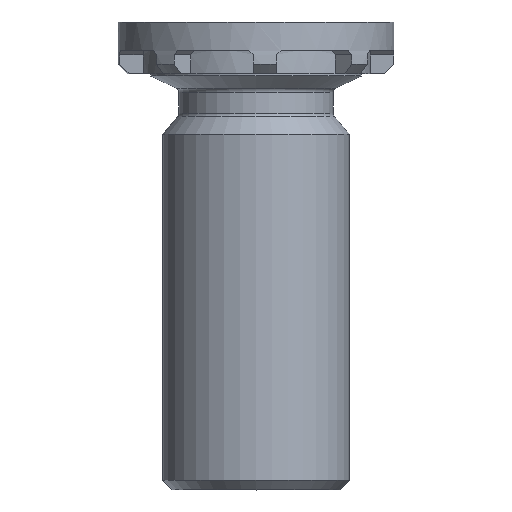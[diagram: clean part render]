
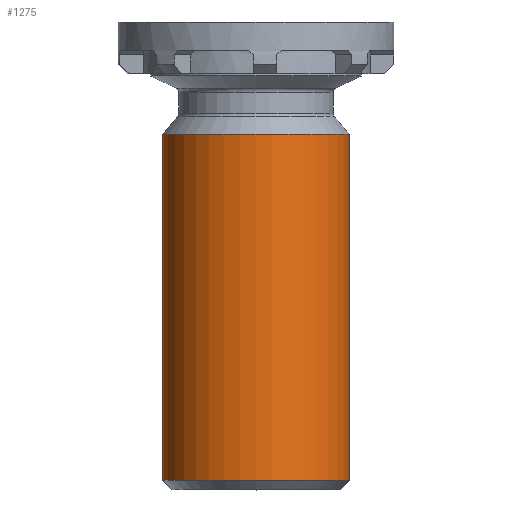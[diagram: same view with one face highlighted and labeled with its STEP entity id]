
A CAD part, top view. The second image highlights one B-rep face of the part: STEP entity #1275.
In plain terms, the highlighted cylindrical face has radius 2 mm (diameter 4 mm), a full revolution.
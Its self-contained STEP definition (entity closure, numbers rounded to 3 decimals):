
#38=CYLINDRICAL_SURFACE('',#1443,2.);
#92=CIRCLE('',#1440,2.);
#93=CIRCLE('',#1441,2.);
#94=CIRCLE('',#1444,2.);
#166=FACE_OUTER_BOUND('',#234,.T.);
#234=EDGE_LOOP('',(#1102,#1103,#1104,#1105,#1106));
#334=LINE('',#2248,#429);
#429=VECTOR('',#1831,2.);
#581=VERTEX_POINT('',#2240);
#582=VERTEX_POINT('',#2242);
#583=VERTEX_POINT('',#2247);
#767=EDGE_CURVE('',#581,#582,#92,.T.);
#768=EDGE_CURVE('',#582,#581,#93,.T.);
#769=EDGE_CURVE('',#582,#583,#334,.T.);
#770=EDGE_CURVE('',#583,#583,#94,.T.);
#1102=ORIENTED_EDGE('',*,*,#767,.F.);
#1103=ORIENTED_EDGE('',*,*,#768,.F.);
#1104=ORIENTED_EDGE('',*,*,#769,.T.);
#1105=ORIENTED_EDGE('',*,*,#770,.T.);
#1106=ORIENTED_EDGE('',*,*,#769,.F.);
#1275=ADVANCED_FACE('',(#166),#38,.T.);
#1440=AXIS2_PLACEMENT_3D('',#2243,#1823,#1824);
#1441=AXIS2_PLACEMENT_3D('',#2244,#1825,#1826);
#1443=AXIS2_PLACEMENT_3D('',#2246,#1829,#1830);
#1444=AXIS2_PLACEMENT_3D('',#2249,#1832,#1833);
#1823=DIRECTION('center_axis',(0.,-1.,0.));
#1824=DIRECTION('ref_axis',(-1.,0.,0.));
#1825=DIRECTION('center_axis',(0.,-1.,0.));
#1826=DIRECTION('ref_axis',(-1.,0.,0.));
#1829=DIRECTION('center_axis',(0.,-1.,0.));
#1830=DIRECTION('ref_axis',(1.,0.,0.));
#1831=DIRECTION('',(0.,1.,0.));
#1832=DIRECTION('center_axis',(0.,-1.,0.));
#1833=DIRECTION('ref_axis',(1.,0.,0.));
#2240=CARTESIAN_POINT('',(2.,0.2,0.));
#2242=CARTESIAN_POINT('',(-2.,0.2,0.));
#2243=CARTESIAN_POINT('Origin',(0.,0.2,0.));
#2244=CARTESIAN_POINT('Origin',(0.,0.2,0.));
#2246=CARTESIAN_POINT('Origin',(0.,3.8,0.));
#2247=CARTESIAN_POINT('',(-2.,7.6,0.));
#2248=CARTESIAN_POINT('',(-2.,3.8,0.));
#2249=CARTESIAN_POINT('Origin',(0.,7.6,0.));
